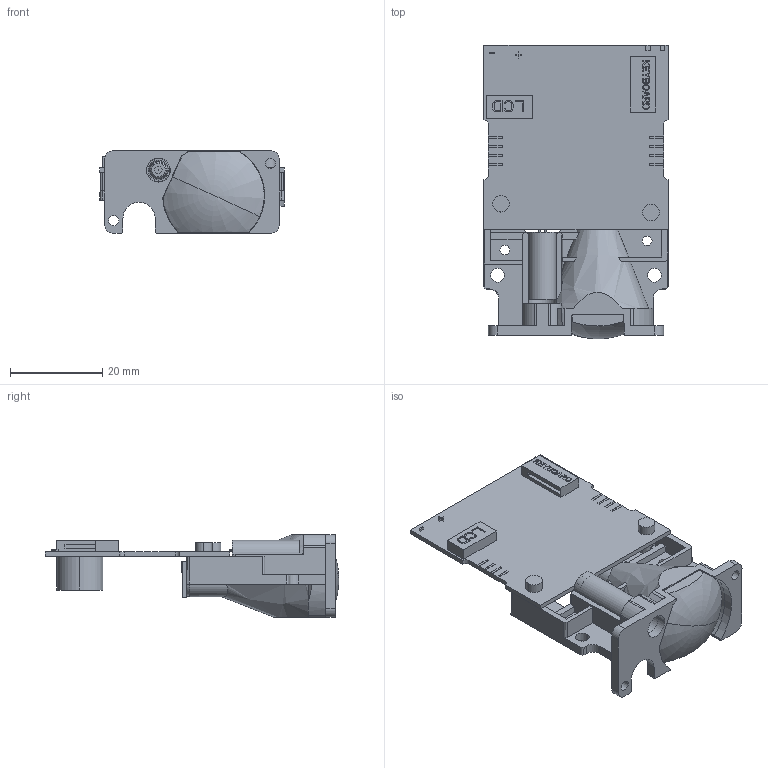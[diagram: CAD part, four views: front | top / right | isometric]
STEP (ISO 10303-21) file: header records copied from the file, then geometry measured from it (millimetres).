
FILE_DESCRIPTION(/* description */ (''),/* implementation_level */ '2;1');
FILE_NAME(/* name */ 'sk100 3D new',/* time_stamp */ '2025-03-03T16:53:00+08:00',/* author */ (''),/* organization */ (''),/* preprocessor_version */ 'ST-DEVELOPER v19.2',/* originating_system */ 'Rhino 8.5',/* authorisation */ '');
FILE_SCHEMA (('CONFIG_CONTROL_DESIGN'));
Length unit declared in the file: millimetre
Products named in the file (1): Document
Bounding box: 40 x 63.7 x 18 mm (x, y, z)
Volume: 7863.6 mm3; surface area: 11392 mm2
Topology: 8 solids, 8 shells, 931 faces, 2576 edges, 1713 vertices
Faces by surface type: plane 729, cylinder 132, bspline 70
Entity records: 30362 total; most frequent: CARTESIAN_POINT 11403, ORIENTED_EDGE 5148, EDGE_CURVE 2574, B_SPLINE_CURVE_WITH_KNOTS 2245, VERTEX_POINT 1713, DIRECTION 1521, AXIS2_PLACEMENT_3D 1191, EDGE_LOOP 1007
